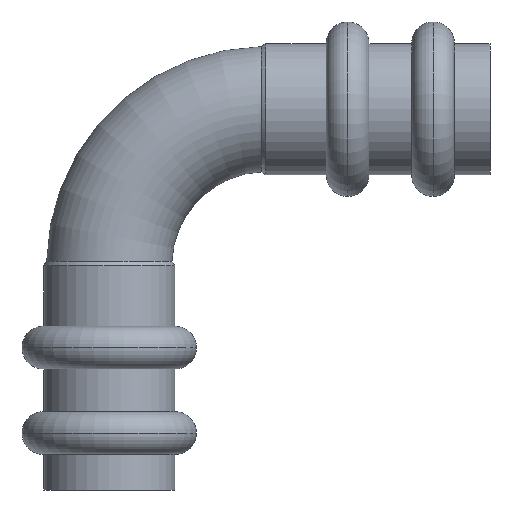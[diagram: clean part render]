
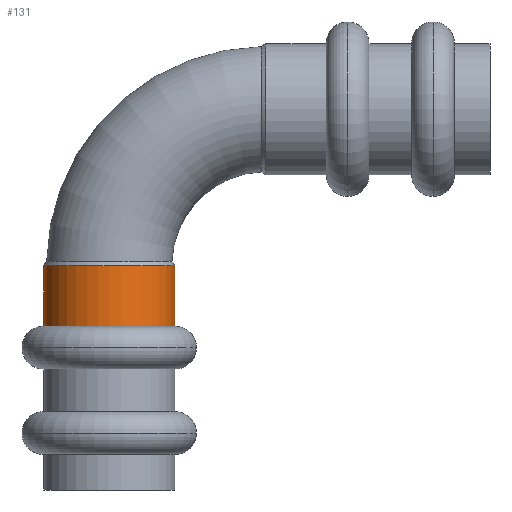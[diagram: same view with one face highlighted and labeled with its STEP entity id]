
A CAD part, front view. The second image highlights one B-rep face of the part: STEP entity #131.
In plain terms, the highlighted cylindrical face has radius 9.225 mm (diameter 18.45 mm), a partial arc.
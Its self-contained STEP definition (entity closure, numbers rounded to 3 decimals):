
#131=ADVANCED_FACE('',(#307),#308,.T.);
#307=FACE_OUTER_BOUND('',#543,.T.);
#308=CYLINDRICAL_SURFACE('',#544,9.225);
#543=EDGE_LOOP('',(#863,#864,#865,#866));
#544=AXIS2_PLACEMENT_3D('',#867,#868,#869);
#863=ORIENTED_EDGE('',*,*,#1356,.F.);
#864=ORIENTED_EDGE('',*,*,#1357,.T.);
#865=ORIENTED_EDGE('',*,*,#1358,.F.);
#866=ORIENTED_EDGE('',*,*,#1359,.F.);
#867=CARTESIAN_POINT('',(0.,0.0,27.25));
#868=DIRECTION('',(0.,0.0,-1.0));
#869=DIRECTION('',(1.0,0.0,0.));
#1356=EDGE_CURVE('',#1611,#1612,#1613,.T.);
#1357=EDGE_CURVE('',#1611,#1614,#1615,.T.);
#1358=EDGE_CURVE('',#1616,#1614,#1617,.T.);
#1359=EDGE_CURVE('',#1612,#1616,#1618,.T.);
#1611=VERTEX_POINT('',#2052);
#1612=VERTEX_POINT('',#2053);
#1613=LINE('',#2054,#2055);
#1614=VERTEX_POINT('',#2056);
#1615=CIRCLE('',#2057,9.225);
#1616=VERTEX_POINT('',#2058);
#1617=LINE('',#2059,#2060);
#1618=CIRCLE('',#2061,9.225);
#2052=CARTESIAN_POINT('',(9.225,0.,31.5));
#2053=CARTESIAN_POINT('',(9.225,0.,23.));
#2054=CARTESIAN_POINT('',(9.225,0.,27.25));
#2055=VECTOR('',#2548,1.0);
#2056=CARTESIAN_POINT('',(-9.225,0.,31.5));
#2057=AXIS2_PLACEMENT_3D('',#2549,#2550,#2551);
#2058=CARTESIAN_POINT('',(-9.225,0.,23.));
#2059=CARTESIAN_POINT('',(-9.225,0.,27.25));
#2060=VECTOR('',#2552,1.0);
#2061=AXIS2_PLACEMENT_3D('',#2553,#2554,#2555);
#2548=DIRECTION('',(0.,0.0,-1.0));
#2549=CARTESIAN_POINT('',(0.,0.0,31.5));
#2550=DIRECTION('',(0.,0.0,-1.0));
#2551=DIRECTION('',(1.0,0.0,0.));
#2552=DIRECTION('',(0.,-0.0,1.0));
#2553=CARTESIAN_POINT('',(0.,0.0,23.));
#2554=DIRECTION('',(0.,0.0,-1.0));
#2555=DIRECTION('',(1.0,0.0,0.));
